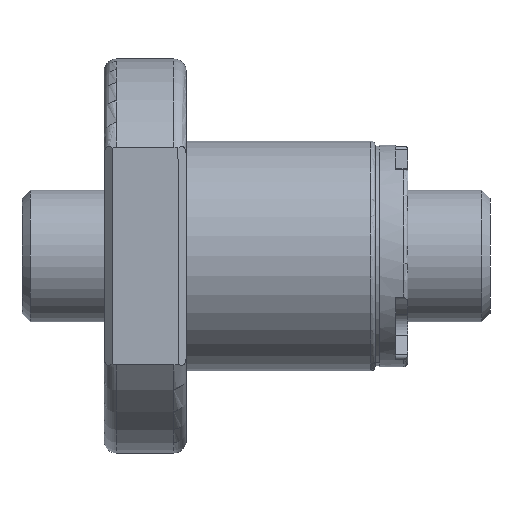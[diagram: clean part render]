
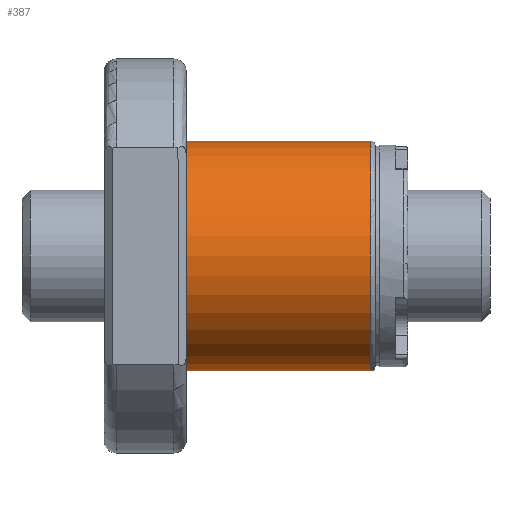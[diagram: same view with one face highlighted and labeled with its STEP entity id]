
A CAD part, front view. The second image highlights one B-rep face of the part: STEP entity #387.
In plain terms, the highlighted cylindrical face has radius 14 mm (diameter 28 mm), a partial arc.
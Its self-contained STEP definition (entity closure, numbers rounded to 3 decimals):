
#60 = EDGE_LOOP ( 'NONE', ( #2813, #2524, #9113, #6540 ) ) ;
#162 = CARTESIAN_POINT ( 'NONE',  ( 0., 0., 0. ) ) ;
#190 = CARTESIAN_POINT ( 'NONE',  ( 10., 0., 0. ) ) ;
#247 = DIRECTION ( 'NONE',  ( -1., 0., 0. ) ) ;
#322 = DIRECTION ( 'NONE',  ( 0., 0., 1. ) ) ;
#387 = ADVANCED_FACE ( 'NONE', ( #3210 ), #6636, .T. ) ;
#1003 = EDGE_CURVE ( 'NONE', #6959, #2745, #1053, .T. ) ;
#1053 = LINE ( 'NONE', #2257, #4621 ) ;
#1558 = CARTESIAN_POINT ( 'NONE',  ( 32.5, 0., -14. ) ) ;
#1789 = VECTOR ( 'NONE', #5301, 1000. ) ;
#2049 = DIRECTION ( 'NONE',  ( 0., 0., 1. ) ) ;
#2257 = CARTESIAN_POINT ( 'NONE',  ( 0., 0., 14. ) ) ;
#2524 = ORIENTED_EDGE ( 'NONE', *, *, #3735, .T. ) ;
#2745 = VERTEX_POINT ( 'NONE', #5746 ) ;
#2813 = ORIENTED_EDGE ( 'NONE', *, *, #9740, .F. ) ;
#3044 = DIRECTION ( 'NONE',  ( 0., 0., 1. ) ) ;
#3210 = FACE_OUTER_BOUND ( 'NONE', #60, .T. ) ;
#3735 = EDGE_CURVE ( 'NONE', #8334, #6959, #6330, .T. ) ;
#4621 = VECTOR ( 'NONE', #8574, 1000. ) ;
#5301 = DIRECTION ( 'NONE',  ( -1., 0., 0. ) ) ;
#5746 = CARTESIAN_POINT ( 'NONE',  ( 10., 0., 14. ) ) ;
#6330 = CIRCLE ( 'NONE', #10084, 14. ) ;
#6540 = ORIENTED_EDGE ( 'NONE', *, *, #6960, .T. ) ;
#6573 = DIRECTION ( 'NONE',  ( 1., 0., 0. ) ) ;
#6636 = CYLINDRICAL_SURFACE ( 'NONE', #8276, 14. ) ;
#6959 = VERTEX_POINT ( 'NONE', #11212 ) ;
#6960 = EDGE_CURVE ( 'NONE', #2745, #11122, #9879, .T. ) ;
#7934 = LINE ( 'NONE', #11679, #1789 ) ;
#8276 = AXIS2_PLACEMENT_3D ( 'NONE', #162, #247, #322 ) ;
#8334 = VERTEX_POINT ( 'NONE', #1558 ) ;
#8347 = CARTESIAN_POINT ( 'NONE',  ( 32.5, 0., 0. ) ) ;
#8501 = DIRECTION ( 'NONE',  ( -1., 0., 0. ) ) ;
#8574 = DIRECTION ( 'NONE',  ( -1., 0., 0. ) ) ;
#9113 = ORIENTED_EDGE ( 'NONE', *, *, #1003, .T. ) ;
#9174 = CARTESIAN_POINT ( 'NONE',  ( 10., 0., -14. ) ) ;
#9655 = AXIS2_PLACEMENT_3D ( 'NONE', #190, #6573, #2049 ) ;
#9740 = EDGE_CURVE ( 'NONE', #8334, #11122, #7934, .T. ) ;
#9879 = CIRCLE ( 'NONE', #9655, 14. ) ;
#10084 = AXIS2_PLACEMENT_3D ( 'NONE', #8347, #8501, #3044 ) ;
#11122 = VERTEX_POINT ( 'NONE', #9174 ) ;
#11212 = CARTESIAN_POINT ( 'NONE',  ( 32.5, 0., 14. ) ) ;
#11679 = CARTESIAN_POINT ( 'NONE',  ( 0., 0., -14. ) ) ;
